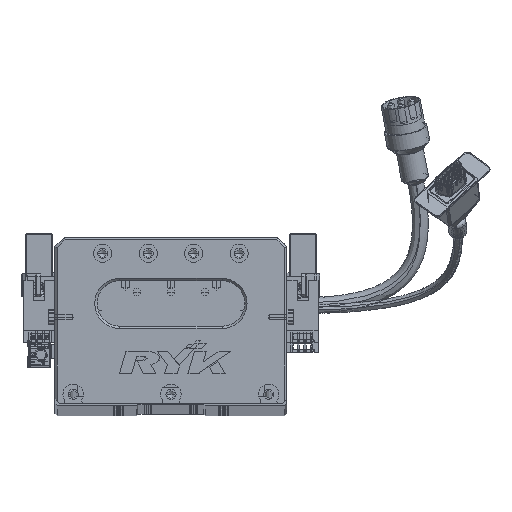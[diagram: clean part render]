
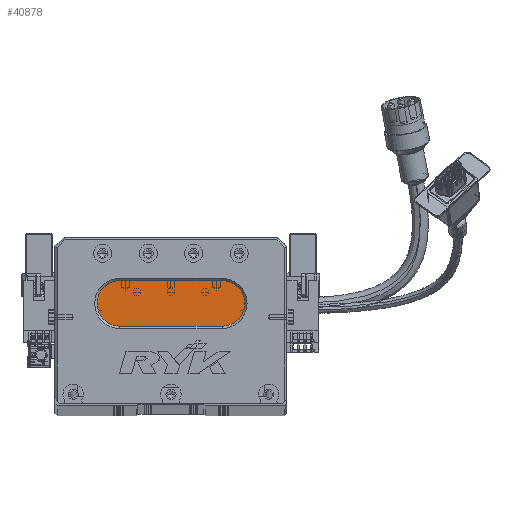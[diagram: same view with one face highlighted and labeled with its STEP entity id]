
A CAD part, top view. The second image highlights one B-rep face of the part: STEP entity #40878.
In plain terms, the highlighted planar face has unit normal (0, 0, 1) as drawn and (0, 0, -1) by its records, which use the part's own axes.
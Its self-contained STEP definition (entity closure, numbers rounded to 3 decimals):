
#7996 = CIRCLE ( 'NONE', #69436, 10. ) ;
#11306 = DIRECTION ( 'NONE',  ( 1., 0., 0. ) ) ;
#13235 = VECTOR ( 'NONE', #11306, 1000. ) ;
#14712 = DIRECTION ( 'NONE',  ( -1., 0., 0. ) ) ;
#16432 = ORIENTED_EDGE ( 'NONE', *, *, #68333, .T. ) ;
#16805 = DIRECTION ( 'NONE',  ( -1., 0., 0. ) ) ;
#17130 = FACE_OUTER_BOUND ( 'NONE', #60917, .T. ) ;
#17387 = LINE ( 'NONE', #70838, #13235 ) ;
#18325 = VERTEX_POINT ( 'NONE', #58742 ) ;
#19248 = EDGE_CURVE ( 'NONE', #41063, #34435, #71535, .T. ) ;
#20515 = ORIENTED_EDGE ( 'NONE', *, *, #82671, .T. ) ;
#22889 = PLANE ( 'NONE',  #58355 ) ;
#27367 = CARTESIAN_POINT ( 'NONE',  ( 73.5, 54., 13. ) ) ;
#30158 = CIRCLE ( 'NONE', #65699, 10. ) ;
#33761 = ORIENTED_EDGE ( 'NONE', *, *, #83138, .T. ) ;
#34435 = VERTEX_POINT ( 'NONE', #79540 ) ;
#35519 = DIRECTION ( 'NONE',  ( 0., 0., -1. ) ) ;
#36646 = CARTESIAN_POINT ( 'NONE',  ( 73.5, 44., 13. ) ) ;
#38245 = CARTESIAN_POINT ( 'NONE',  ( 28.5, 44., 13. ) ) ;
#38801 = VERTEX_POINT ( 'NONE', #27367 ) ;
#39895 = ORIENTED_EDGE ( 'NONE', *, *, #48503, .T. ) ;
#40878 = ADVANCED_FACE ( 'NONE', ( #17130 ), #22889, .T. ) ;
#41063 = VERTEX_POINT ( 'NONE', #78939 ) ;
#48503 = EDGE_CURVE ( 'NONE', #34435, #81911, #30158, .T. ) ;
#52186 = AXIS2_PLACEMENT_3D ( 'NONE', #74564, #73992, #14712 ) ;
#52903 = ORIENTED_EDGE ( 'NONE', *, *, #19248, .T. ) ;
#53605 = VECTOR ( 'NONE', #70033, 1000. ) ;
#57253 = DIRECTION ( 'NONE',  ( -1., 0., 0. ) ) ;
#58355 = AXIS2_PLACEMENT_3D ( 'NONE', #36646, #35519, #16805 ) ;
#58742 = CARTESIAN_POINT ( 'NONE',  ( 73.5, 34., 13. ) ) ;
#59784 = LINE ( 'NONE', #77274, #53605 ) ;
#60917 = EDGE_LOOP ( 'NONE', ( #33761, #16432, #52903, #39895, #20515 ) ) ;
#61618 = CARTESIAN_POINT ( 'NONE',  ( 73.5, 44., 13. ) ) ;
#64988 = CARTESIAN_POINT ( 'NONE',  ( 28.5, 54., 13. ) ) ;
#65699 = AXIS2_PLACEMENT_3D ( 'NONE', #38245, #84039, #57253 ) ;
#68179 = DIRECTION ( 'NONE',  ( 0., 0., -1. ) ) ;
#68333 = EDGE_CURVE ( 'NONE', #18325, #41063, #59784, .T. ) ;
#69436 = AXIS2_PLACEMENT_3D ( 'NONE', #61618, #68179, #81494 ) ;
#70033 = DIRECTION ( 'NONE',  ( -1., 0., 0. ) ) ;
#70838 = CARTESIAN_POINT ( 'NONE',  ( 73.5, 54., 13. ) ) ;
#71535 = CIRCLE ( 'NONE', #52186, 10. ) ;
#73992 = DIRECTION ( 'NONE',  ( 0., 0., -1. ) ) ;
#74564 = CARTESIAN_POINT ( 'NONE',  ( 28.5, 44., 13. ) ) ;
#77274 = CARTESIAN_POINT ( 'NONE',  ( 73.5, 34., 13. ) ) ;
#78939 = CARTESIAN_POINT ( 'NONE',  ( 28.5, 34., 13. ) ) ;
#79540 = CARTESIAN_POINT ( 'NONE',  ( 18.5, 44., 13. ) ) ;
#81494 = DIRECTION ( 'NONE',  ( -1., 0., 0. ) ) ;
#81911 = VERTEX_POINT ( 'NONE', #64988 ) ;
#82671 = EDGE_CURVE ( 'NONE', #81911, #38801, #17387, .T. ) ;
#83138 = EDGE_CURVE ( 'NONE', #38801, #18325, #7996, .T. ) ;
#84039 = DIRECTION ( 'NONE',  ( 0., 0., -1. ) ) ;
